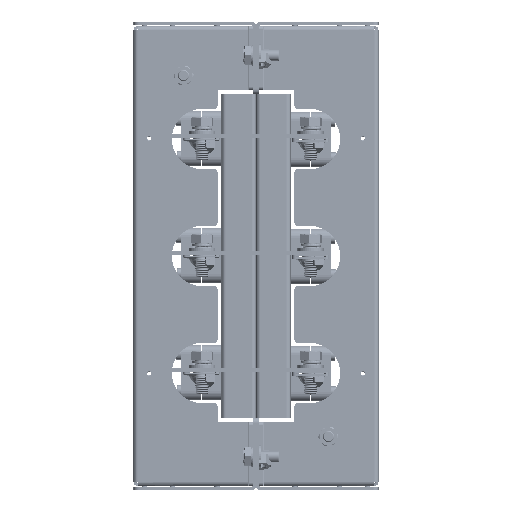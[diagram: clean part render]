
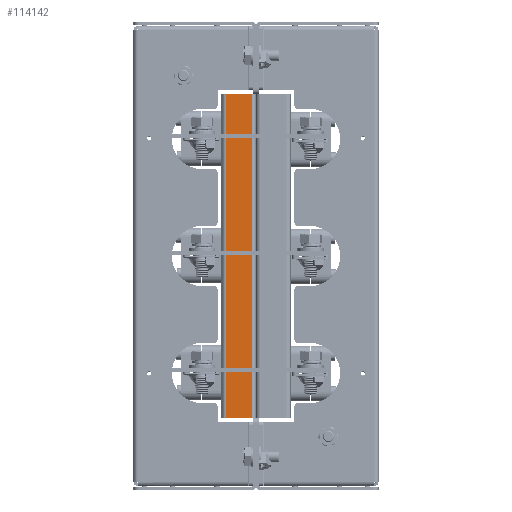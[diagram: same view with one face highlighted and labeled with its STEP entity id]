
A CAD part, left-side view. The second image highlights one B-rep face of the part: STEP entity #114142.
In plain terms, the highlighted planar face has unit normal (-1, 0, 0).
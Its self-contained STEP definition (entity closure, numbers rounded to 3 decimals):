
#5504 = VECTOR ( 'NONE', #58473, 1000. ) ;
#18386 = EDGE_CURVE ( 'NONE', #61096, #28729, #20955, .T. ) ;
#19320 = AXIS2_PLACEMENT_3D ( 'NONE', #45930, #81788, #28424 ) ;
#20682 = ORIENTED_EDGE ( 'NONE', *, *, #102225, .T. ) ;
#20955 = LINE ( 'NONE', #93859, #112937 ) ;
#24407 = CARTESIAN_POINT ( 'NONE',  ( -234.5, 4., -145. ) ) ;
#28424 = DIRECTION ( 'NONE',  ( 0., 1., 0. ) ) ;
#28729 = VERTEX_POINT ( 'NONE', #24407 ) ;
#35110 = FACE_OUTER_BOUND ( 'NONE', #97193, .T. ) ;
#43829 = CARTESIAN_POINT ( 'NONE',  ( -234.5, 27., 145. ) ) ;
#45435 = CARTESIAN_POINT ( 'NONE',  ( -234.5, 4., 145. ) ) ;
#45930 = CARTESIAN_POINT ( 'NONE',  ( -234.5, 3., 145. ) ) ;
#52729 = DIRECTION ( 'NONE',  ( 0., 0., -1. ) ) ;
#52967 = LINE ( 'NONE', #58099, #5504 ) ;
#56479 = DIRECTION ( 'NONE',  ( 0., 1., 0. ) ) ;
#57708 = CARTESIAN_POINT ( 'NONE',  ( -234.5, 27., 145. ) ) ;
#58055 = DIRECTION ( 'NONE',  ( 0., 0., -1. ) ) ;
#58099 = CARTESIAN_POINT ( 'NONE',  ( -234.5, 3., -145. ) ) ;
#58473 = DIRECTION ( 'NONE',  ( 0., -1., 0. ) ) ;
#61096 = VERTEX_POINT ( 'NONE', #45435 ) ;
#62550 = LINE ( 'NONE', #43829, #107098 ) ;
#66667 = VERTEX_POINT ( 'NONE', #79361 ) ;
#67933 = ORIENTED_EDGE ( 'NONE', *, *, #115098, .T. ) ;
#72845 = PLANE ( 'NONE',  #19320 ) ;
#78997 = VERTEX_POINT ( 'NONE', #57708 ) ;
#79361 = CARTESIAN_POINT ( 'NONE',  ( -234.5, 27., -145. ) ) ;
#80826 = ORIENTED_EDGE ( 'NONE', *, *, #18386, .F. ) ;
#81788 = DIRECTION ( 'NONE',  ( 1., 0., 0. ) ) ;
#88068 = VECTOR ( 'NONE', #56479, 1000. ) ;
#93859 = CARTESIAN_POINT ( 'NONE',  ( -234.5, 4., -145. ) ) ;
#97193 = EDGE_LOOP ( 'NONE', ( #110196, #67933, #80826, #20682 ) ) ;
#100499 = CARTESIAN_POINT ( 'NONE',  ( -234.5, 3., 145. ) ) ;
#102225 = EDGE_CURVE ( 'NONE', #61096, #78997, #111724, .T. ) ;
#107098 = VECTOR ( 'NONE', #52729, 1000. ) ;
#108606 = EDGE_CURVE ( 'NONE', #78997, #66667, #62550, .T. ) ;
#110196 = ORIENTED_EDGE ( 'NONE', *, *, #108606, .T. ) ;
#111724 = LINE ( 'NONE', #100499, #88068 ) ;
#112937 = VECTOR ( 'NONE', #58055, 1000. ) ;
#114142 = ADVANCED_FACE ( 'NONE', ( #35110 ), #72845, .F. ) ;
#115098 = EDGE_CURVE ( 'NONE', #66667, #28729, #52967, .T. ) ;
